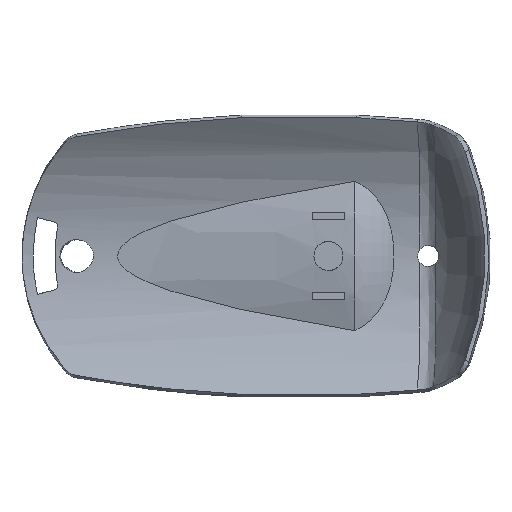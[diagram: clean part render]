
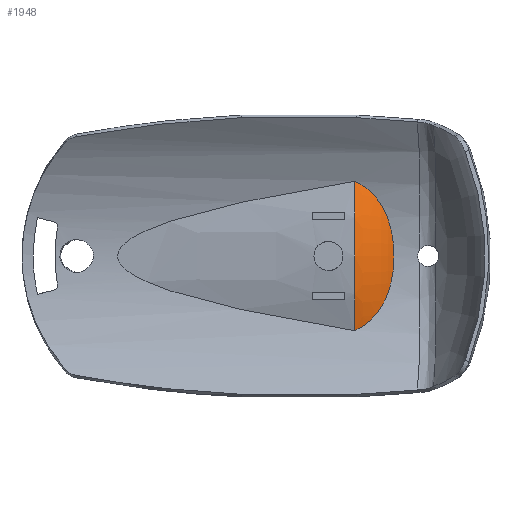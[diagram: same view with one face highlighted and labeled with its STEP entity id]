
A CAD part, front view. The second image highlights one B-rep face of the part: STEP entity #1948.
In plain terms, the highlighted toroidal (fillet/blend) face has major radius 21.661 mm and minor radius 11.1 mm.
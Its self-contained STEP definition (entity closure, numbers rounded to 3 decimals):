
#69 = CARTESIAN_POINT ( 'NONE',  ( 18.453, 15.678, -5.098 ) ) ;
#312 = CARTESIAN_POINT ( 'NONE',  ( 19.111, 16.033, 2.074 ) ) ;
#314 = AXIS2_PLACEMENT_3D ( 'NONE', #455, #343, #3440 ) ;
#343 = DIRECTION ( 'NONE',  ( 1., 0., 0. ) ) ;
#383 = CARTESIAN_POINT ( 'NONE',  ( 17.546, 15.284, -6.942 ) ) ;
#401 = EDGE_LOOP ( 'NONE', ( #2086, #4291 ) ) ;
#404 = CARTESIAN_POINT ( 'NONE',  ( 15.356, 14.581, -9.411 ) ) ;
#455 = CARTESIAN_POINT ( 'NONE',  ( 10.739, 44.913, 0. ) ) ;
#710 = FACE_OUTER_BOUND ( 'NONE', #401, .T. ) ;
#766 = CARTESIAN_POINT ( 'NONE',  ( 15.558, 14.632, -9.255 ) ) ;
#1116 = CARTESIAN_POINT ( 'NONE',  ( 19.041, 15.993, -2.583 ) ) ;
#1137 = CARTESIAN_POINT ( 'NONE',  ( 17.582, 15.29, 6.976 ) ) ;
#1168 = CARTESIAN_POINT ( 'NONE',  ( 16.135, 14.793, -8.746 ) ) ;
#1289 = EDGE_CURVE ( 'NONE', #2681, #4276, #4698, .T. ) ;
#1490 = CARTESIAN_POINT ( 'NONE',  ( 19.112, 16.033, -2.064 ) ) ;
#1514 = CARTESIAN_POINT ( 'NONE',  ( 19.205, 16.087, -1.032 ) ) ;
#1516 = CARTESIAN_POINT ( 'NONE',  ( 15.947, 14.738, -8.923 ) ) ;
#1529 = CARTESIAN_POINT ( 'NONE',  ( 18.747, 15.833, 4.119 ) ) ;
#1549 = CARTESIAN_POINT ( 'NONE',  ( 13.802, 14.269, 10.304 ) ) ;
#1586 = CARTESIAN_POINT ( 'NONE',  ( 17.412, 15.231, -7.16 ) ) ;
#1744 = TOROIDAL_SURFACE ( 'NONE', #314, 21.661, 11.1 ) ;
#1815 = EDGE_CURVE ( 'NONE', #4276, #2681, #4849, .T. ) ;
#1854 = CARTESIAN_POINT ( 'NONE',  ( 17.025, 15.068, 7.827 ) ) ;
#1890 = CARTESIAN_POINT ( 'NONE',  ( 15.563, 14.629, 9.267 ) ) ;
#1948 = ADVANCED_FACE ( 'NONE', ( #710 ), #1744, .T. ) ;
#2086 = ORIENTED_EDGE ( 'NONE', *, *, #1815, .T. ) ;
#2243 = CARTESIAN_POINT ( 'NONE',  ( 14.729, 14.434, 9.847 ) ) ;
#2280 = CARTESIAN_POINT ( 'NONE',  ( 14.282, 14.344, 10.097 ) ) ;
#2532 = CARTESIAN_POINT ( 'NONE',  ( 13.802, 14.269, -10.304 ) ) ;
#2624 = CARTESIAN_POINT ( 'NONE',  ( 15.95, 14.736, 8.937 ) ) ;
#2662 = CARTESIAN_POINT ( 'NONE',  ( 19.228, 16.1, -0.515 ) ) ;
#2681 = VERTEX_POINT ( 'NONE', #1549 ) ;
#2708 = CARTESIAN_POINT ( 'NONE',  ( 13.802, 14.269, -10.304 ) ) ;
#3005 = CARTESIAN_POINT ( 'NONE',  ( 13.802, 14.269, 10.304 ) ) ;
#3061 = CARTESIAN_POINT ( 'NONE',  ( 14.729, 14.434, -9.847 ) ) ;
#3432 = CARTESIAN_POINT ( 'NONE',  ( 14.282, 14.344, -10.097 ) ) ;
#3440 = DIRECTION ( 'NONE',  ( 0., 0., -1. ) ) ;
#3538 = AXIS2_PLACEMENT_3D ( 'NONE', #4072, #3687, #3728 ) ;
#3687 = DIRECTION ( 'NONE',  ( 1., 0., 0. ) ) ;
#3728 = DIRECTION ( 'NONE',  ( 0., 0., -1. ) ) ;
#3751 = CARTESIAN_POINT ( 'NONE',  ( 16.987, 15.069, -7.795 ) ) ;
#3848 = CARTESIAN_POINT ( 'NONE',  ( 17.796, 15.387, -6.494 ) ) ;
#4072 = CARTESIAN_POINT ( 'NONE',  ( 13.802, 44.913, 0. ) ) ;
#4112 = CARTESIAN_POINT ( 'NONE',  ( 19.039, 15.992, 2.594 ) ) ;
#4152 = CARTESIAN_POINT ( 'NONE',  ( 16.67, 14.958, -8.193 ) ) ;
#4276 = VERTEX_POINT ( 'NONE', #2532 ) ;
#4291 = ORIENTED_EDGE ( 'NONE', *, *, #1289, .T. ) ;
#4455 = CARTESIAN_POINT ( 'NONE',  ( 19.228, 16.1, 0.519 ) ) ;
#4474 = CARTESIAN_POINT ( 'NONE',  ( 19.205, 16.087, 1.037 ) ) ;
#4500 = CARTESIAN_POINT ( 'NONE',  ( 18.452, 15.677, 5.101 ) ) ;
#4514 = CARTESIAN_POINT ( 'NONE',  ( 17.913, 15.438, -6.263 ) ) ;
#4698 = CIRCLE ( 'NONE', #3538, 32.33 ) ;
#4823 = CARTESIAN_POINT ( 'NONE',  ( 18.748, 15.833, -4.116 ) ) ;
#4849 = B_SPLINE_CURVE_WITH_KNOTS ( 'NONE', 3,
 ( #2708, #3432, #3061, #404, #766, #1516, #1168, #4152, #3751, #1586, #383, #3848, #4514, #69, #4823, #1116, #1490, #1514, #2662, #4455, #4474, #312, #4112, #1529, #4500, #1137, #1854, #2624, #1890, #2243, #2280, #3005 ),
 .UNSPECIFIED., .F., .F.,
 ( 4, 2, 2, 2, 2, 2, 2, 2, 2, 2, 2, 2, 2, 2, 2, 4 ),
 ( 0., 0.002, 0.002, 0.003, 0.005, 0.005, 0.006, 0.009, 0.011, 0.012, 0.014, 0.016, 0.019, 0.022, 0.023, 0.025 ),
 .UNSPECIFIED. ) ;
